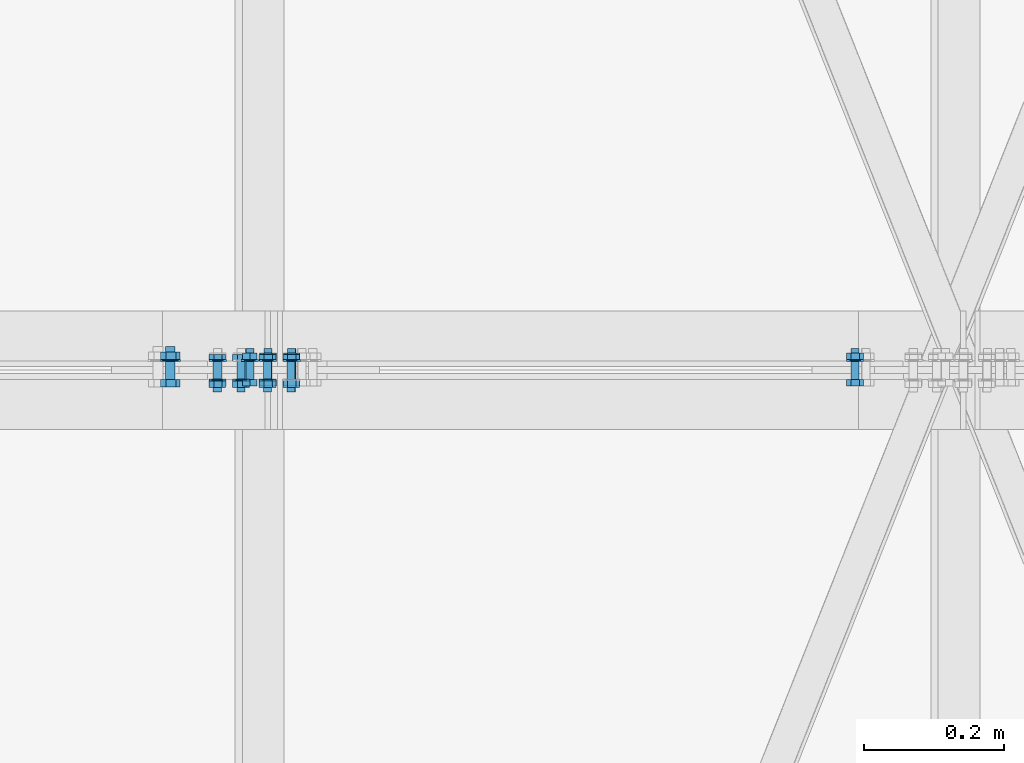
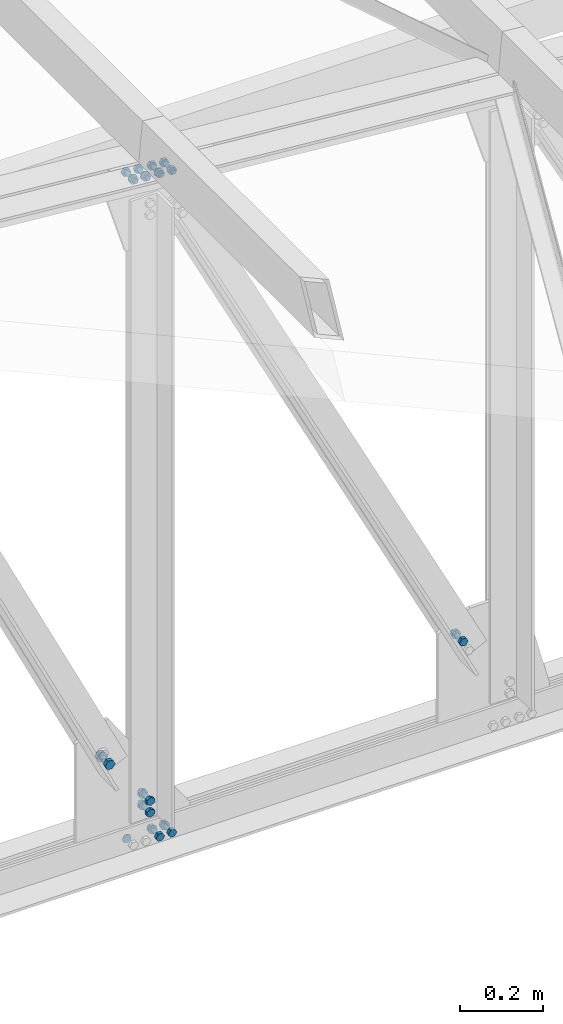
# One storey, part 142 of 251: 40 mechanical fasteners.
"""IFC4 building model written with IfcOpenShell, lengths in metres."""

import ifcopenshell
import ifcopenshell.guid

model = None  # the IFC model being written
_history = None  # IfcOwnerHistory: only IFC2X3 demands one
_inside = {}  # id of a spatial element -> (the spatial element, [elements in it])
_under = {}  # id of a project, library or spatial element -> (it, [spatial elements below it])
_declared = {}  # id of a project -> (the project, [libraries it declares])
_typed = {}  # id of a type object -> (the type object, [elements of that type])
_made_of = {}  # id of a material, layer set ... -> (it, [elements and type objects made of it])


def new_model(schema):
    """Start an empty IFC model of exactly this schema.

    Asked for "IFC4X3", IfcOpenShell would pick the latest addendum, in which some entities
    have other attributes; the version numbers below select the first issue.
    IFC2X3 requires an IfcOwnerHistory on every rooted entity: one is made here for all.
    """
    global model, _history
    if schema == "IFC4X3":
        model = ifcopenshell.file(schema_version=(4, 3, 0, 0))
    else:
        model = ifcopenshell.file(schema=schema)
    _inside.clear()
    _under.clear()
    _declared.clear()
    _typed.clear()
    _made_of.clear()
    _history = None
    if model.schema == "IFC2X3":
        org = make("IfcOrganization", Name="unknown")
        user = make(
            "IfcPersonAndOrganization",
            ThePerson=make("IfcPerson", FamilyName="unknown"),
            TheOrganization=org,
        )
        app = make(
            "IfcApplication",
            ApplicationDeveloper=org,
            Version="unknown",
            ApplicationFullName="unknown",
            ApplicationIdentifier="unknown",
        )
        _history = make(
            "IfcOwnerHistory",
            OwningUser=user,
            OwningApplication=app,
            ChangeAction="ADDED",
            CreationDate=0,
        )
    return model


def make(cls, **values):
    """One entity of the class cls with the attributes given. An attribute that is None is left unset."""
    return model.create_entity(
        cls, **{name: value for name, value in values.items() if value is not None}
    )


def rooted(cls, **values):
    """An entity with a GlobalId (a new one), such as an element, a storey or a relation."""
    return make(cls, GlobalId=ifcopenshell.guid.new(), OwnerHistory=_history, **values)


def si_unit(unit_type, name, prefix=None):
    """IfcSIUnit, for example si_unit("LENGTHUNIT", "METRE", prefix="MILLI")."""
    return make("IfcSIUnit", UnitType=unit_type, Prefix=prefix, Name=name)


def assignment(units):
    """IfcUnitAssignment: the units of a project."""
    return None if units is None else make("IfcUnitAssignment", Units=units)


def point(xyz):
    """IfcCartesianPoint."""
    return None if xyz is None else make("IfcCartesianPoint", Coordinates=xyz)


def direction(xyz):
    """IfcDirection."""
    return None if xyz is None else make("IfcDirection", DirectionRatios=xyz)


def frame(location, z_axis=None, x_axis=None):
    """IfcAxis2Placement3D, a coordinate frame: its origin and axes. An axis left out is left unset."""
    return make(
        "IfcAxis2Placement3D",
        Location=point(location),
        Axis=direction(z_axis),
        RefDirection=direction(x_axis),
    )


def origin_with_axes():
    """The frame at (0, 0, 0) with the z axis (0, 0, 1) and the x axis (1, 0, 0) written out."""
    return frame((0.0, 0.0, 0.0), z_axis=(0.0, 0.0, 1.0), x_axis=(1.0, 0.0, 0.0))


def place(relative_to, where):
    """IfcLocalPlacement: puts the frame where relative to a parent placement (None: the world)."""
    return make(
        "IfcLocalPlacement", PlacementRelTo=relative_to, RelativePlacement=where
    )


def context(
    kind, dimensions, precision=None, world=None, true_north=None, identifier=None
):
    """IfcGeometricRepresentationContext, for example the 3D "Model" context."""
    return make(
        "IfcGeometricRepresentationContext",
        ContextIdentifier=identifier,
        ContextType=kind,
        CoordinateSpaceDimension=dimensions,
        Precision=precision,
        WorldCoordinateSystem=world,
        TrueNorth=true_north,
    )


def project(units=None, contexts=None):
    """IfcProject with its units and contexts."""
    return rooted(
        "IfcProject",
        Name="project",
        RepresentationContexts=contexts,
        UnitsInContext=assignment(units),
    )


def spatial(cls, under=None, at=None, **own):
    """A site, building, storey or space (cls), placed at a placement, below another one or the project."""
    s = rooted(cls, ObjectPlacement=at, **own)
    if under is not None:
        _under.setdefault(under.id(), (under, []))[1].append(s)
    return s


def polyline(points):
    """IfcPolyline through the points."""
    return make("IfcPolyline", Points=[point(p) for p in points])


def outline(outer, holes=None, kind="AREA"):
    """IfcArbitraryClosedProfileDef: a profile drawn as a closed curve; with holes, ...WithVoids."""
    if holes is None:
        return make("IfcArbitraryClosedProfileDef", ProfileType=kind, OuterCurve=outer)
    return make(
        "IfcArbitraryProfileDefWithVoids",
        ProfileType=kind,
        OuterCurve=outer,
        InnerCurves=holes,
    )


def extrude(swept, where, along, depth):
    """IfcExtrudedAreaSolid: the profile swept, set in the frame where, extruded along a direction by depth."""
    return make(
        "IfcExtrudedAreaSolid",
        SweptArea=swept,
        Position=where,
        ExtrudedDirection=direction(along),
        Depth=depth,
    )


def shape(context_of_items, identifier, shape_type, items):
    """IfcShapeRepresentation: the items that make up one representation, for example the "Body"."""
    return make(
        "IfcShapeRepresentation",
        ContextOfItems=context_of_items,
        RepresentationIdentifier=identifier,
        RepresentationType=shape_type,
        Items=items,
    )


def made_of(thing, what):
    """Note that an element or type object is made of a material, layer set ...; save() writes the relation."""
    if what is not None:
        _made_of.setdefault(what.id(), (what, []))[1].append(thing)
    return thing


def type_object(cls, material=None, **own):
    """A type object (cls), such as IfcWallType, which elements share."""
    return made_of(rooted(cls, **own), material)


def element(
    cls,
    number,
    at=None,
    inside=None,
    cuts=None,
    type_object=None,
    material=None,
    context=None,
    identifier="Body",
    shape_type=None,
    held_by="IfcProductDefinitionShape",
    body=None,
    shapes=None,
    **own,
):
    """One element of the class cls, such as IfcWall. Its Tag is "e" and its number.

    at: its placement. inside: the storey or other place that contains it. cuts: it is an
    opening in that element (IfcRelVoidsElement). A single representation is given by context,
    identifier, shape_type and body (its items); several are given by shapes. held_by: the class
    of the entity that holds the representations. save() writes the other relations.
    """
    e = rooted(cls, Tag="e%d" % number, ObjectPlacement=at, **own)
    if body is not None:
        shapes = [shape(context, identifier, shape_type, body)]
    if shapes is not None:
        e.Representation = make(held_by, Representations=shapes)
    if inside is not None:
        _inside.setdefault(inside.id(), (inside, []))[1].append(e)
    if cuts is not None:
        rooted(
            "IfcRelVoidsElement", RelatingBuildingElement=cuts, RelatedOpeningElement=e
        )
    if type_object is not None:
        _typed.setdefault(type_object.id(), (type_object, []))[1].append(e)
    return made_of(e, material)


def aggregate(whole, parts):
    """IfcRelAggregates: a whole, such as a stair, and the parts it consists of."""
    return rooted("IfcRelAggregates", RelatingObject=whole, RelatedObjects=parts)


def save(model, path):
    """Write the relations noted so far, then the file.

    IfcRelAggregates (storeys below a building ...), IfcRelContainedInSpatialStructure (elements
    in a storey), IfcRelDefinesByType, IfcRelAssociatesMaterial and IfcRelDeclares: one each for
    every whole, place, type object, material and project.
    """
    for whole, parts in _under.values():
        aggregate(whole, parts)
    for where, things in _inside.values():
        rooted(
            "IfcRelContainedInSpatialStructure",
            RelatedElements=things,
            RelatingStructure=where,
        )
    for kind, things in _typed.values():
        rooted("IfcRelDefinesByType", RelatedObjects=things, RelatingType=kind)
    for what, things in _made_of.values():
        rooted("IfcRelAssociatesMaterial", RelatedObjects=things, RelatingMaterial=what)
    for by, libraries in _declared.values():
        rooted("IfcRelDeclares", RelatingContext=by, RelatedDefinitions=libraries)
    model.write(path)


model = new_model("IFC4")

# Units and contexts
model_context = context("Model", 3, precision=1e-05, world=origin_with_axes())
ifc_project = project(units=[si_unit("LENGTHUNIT", "METRE"), si_unit("AREAUNIT", "SQUARE_METRE"), si_unit("VOLUMEUNIT", "CUBIC_METRE"), si_unit("MASSUNIT", "GRAM", prefix="KILO"), si_unit("TIMEUNIT", "SECOND"), si_unit("PLANEANGLEUNIT", "RADIAN"), si_unit("SOLIDANGLEUNIT", "STERADIAN"), si_unit("THERMODYNAMICTEMPERATUREUNIT", "DEGREE_CELSIUS")], contexts=[model_context])

# Site, building, storey
placement_1 = place(None, origin_with_axes())
site = spatial("IfcSite", under=ifc_project, at=placement_1, Name="Italia", CompositionType="ELEMENT")
building = spatial("IfcBuilding", under=site, at=placement_1, Name="Deposito", CompositionType="ELEMENT")
storey = spatial("IfcBuildingStorey", under=building, at=placement_1, Name="Storey 0", CompositionType="ELEMENT", Elevation=0.0)

# Mechanical fasteners
mechanical_fastener_type_1 = type_object("IfcMechanicalFastenerType", Name="Reticolare 5", PredefinedType="BOLT")
placement_2 = place(placement_1, origin_with_axes())
mechanical_fastener_1_placement = place(placement_2, origin_with_axes())
element("IfcMechanicalFastener", 1, at=mechanical_fastener_1_placement, inside=storey, type_object=mechanical_fastener_type_1, Name="Reticolare 5", NominalDiameter=0.024, context=model_context, shape_type="SweptSolid", body=[
    extrude(outline(polyline([(0.0, 0.0), (-0.000409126, -0.00310564), (-0.00160789, -0.00600004), (-0.00351524, -0.00848532), (-0.00600052, -0.0103922), (-0.00889397, -0.011591), (-0.0120001, -0.0120001), (-0.0151062, -0.011591), (-0.0179996, -0.0103922), (-0.0204849, -0.00848532), (-0.0223923, -0.00600004), (-0.023591, -0.00310564), (-0.0240002, 0.0), (-0.023591, 0.00310564), (-0.0223923, 0.00600004), (-0.0204849, 0.00848532), (-0.0179996, 0.0103922), (-0.0151062, 0.011591), (-0.0120001, 0.0120001), (-0.00889397, 0.011591), (-0.00600052, 0.0103922), (-0.00351524, 0.00848532), (-0.00160789, 0.00600004), (-0.000409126, 0.00310564), (0.0, 0.0)])), frame((9.00086, 15.015, 5.007), z_axis=(0.0, -1.0, 0.0), x_axis=(1.0, 0.0, 0.0)), (0.0, 0.0, 1.0), 0.00200081),
])
mechanical_fastener_type_2 = type_object("IfcMechanicalFastenerType", Name="Reticolare 5", PredefinedType="BOLT")
mechanical_fastener_2_placement = place(placement_2, origin_with_axes())
element("IfcMechanicalFastener", 2, at=mechanical_fastener_2_placement, inside=storey, type_object=mechanical_fastener_type_2, Name="Reticolare 5", NominalDiameter=0.0119997, context=model_context, shape_type="SweptSolid", body=[
    extrude(outline(polyline([(0.0, 0.0), (-0.0120001, 0.0), (-0.0179996, 0.0103922), (-0.0120001, 0.0207844), (0.0, 0.0207844), (0.00600052, 0.0103922), (0.0, 0.0)])), frame((9.06686, 14.987, 4.99661), z_axis=(0.0, -1.0, 0.0), x_axis=(1.0, 0.0, 0.0)), (0.0, 0.0, 1.0), 0.00960064),
])
mechanical_fastener_type_3 = type_object("IfcMechanicalFastenerType", Name="Reticolare 5", PredefinedType="BOLT")
mechanical_fastener_3_placement = place(placement_2, origin_with_axes())
element("IfcMechanicalFastener", 3, at=mechanical_fastener_3_placement, inside=storey, type_object=mechanical_fastener_type_3, Name="Reticolare 5", NominalDiameter=0.012, context=model_context, shape_type="SweptSolid", body=[
    extrude(outline(polyline([(0.0, 0.0), (-0.000204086, -0.00155306), (-0.000802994, -0.00299978), (-0.00175667, -0.00424242), (-0.00299931, -0.00519609), (-0.00444698, -0.00579548), (-0.00599957, -0.00600004), (-0.00755215, -0.00579548), (-0.00899982, -0.00519609), (-0.0102425, -0.00424242), (-0.0111961, -0.00299978), (-0.011795, -0.00155306), (-0.0119991, 0.0), (-0.011795, 0.00155306), (-0.0111961, 0.00299978), (-0.0102425, 0.00424242), (-0.00899982, 0.00519609), (-0.00755215, 0.00579548), (-0.00599957, 0.00600004), (-0.00444698, 0.00579548), (-0.00299931, 0.00519609), (-0.00175667, 0.00424242), (-0.000802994, 0.00299978), (-0.000204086, 0.00155306), (0.0, 0.0)])), frame((9.06686, 15.031, 5.007), z_axis=(0.0, -1.0, 0.0), x_axis=(1.0, 0.0, 0.0)), (0.0, 0.0, 1.0), 0.0439997),
])
mechanical_fastener_type_4 = type_object("IfcMechanicalFastenerType", Name="Reticolare 5", PredefinedType="BOLT")
mechanical_fastener_4_placement = place(placement_2, origin_with_axes())
element("IfcMechanicalFastener", 4, at=mechanical_fastener_4_placement, inside=storey, type_object=mechanical_fastener_type_4, Name="Reticolare 5", NominalDiameter=0.0119997, context=model_context, shape_type="SweptSolid", body=[
    extrude(outline(polyline([(0.0, 0.0), (-0.0120001, 0.0), (-0.0179996, 0.0103922), (-0.0120001, 0.0207844), (0.0, 0.0207844), (0.00600052, 0.0103922), (0.0, 0.0)])), frame((9.06686, 15.0246, 4.99661), z_axis=(0.0, -1.0, 0.0), x_axis=(1.0, 0.0, 0.0)), (0.0, 0.0, 1.0), 0.00959969),
])
mechanical_fastener_type_5 = type_object("IfcMechanicalFastenerType", Name="Reticolare 5", PredefinedType="BOLT")
mechanical_fastener_5_placement = place(placement_2, origin_with_axes())
element("IfcMechanicalFastener", 5, at=mechanical_fastener_5_placement, inside=storey, type_object=mechanical_fastener_type_5, Name="Reticolare 5", NominalDiameter=0.024, context=model_context, shape_type="SweptSolid", body=[
    extrude(outline(polyline([(0.0, 0.0), (-0.000409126, -0.00310564), (-0.00160789, -0.00600004), (-0.00351524, -0.00848532), (-0.00600052, -0.0103922), (-0.00889397, -0.011591), (-0.0120001, -0.0120001), (-0.0151062, -0.011591), (-0.0179996, -0.0103922), (-0.0204849, -0.00848532), (-0.0223923, -0.00600004), (-0.023591, -0.00310564), (-0.0240002, 0.0), (-0.023591, 0.00310564), (-0.0223923, 0.00600004), (-0.0204849, 0.00848532), (-0.0179996, 0.0103922), (-0.0151062, 0.011591), (-0.0120001, 0.0120001), (-0.00889397, 0.011591), (-0.00600052, 0.0103922), (-0.00351524, 0.00848532), (-0.00160789, 0.00600004), (-0.000409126, 0.00310564), (0.0, 0.0)])), frame((9.07286, 15.015, 5.007), z_axis=(0.0, -1.0, 0.0), x_axis=(1.0, 0.0, 0.0)), (0.0, 0.0, 1.0), 0.00200081),
])
mechanical_fastener_type_6 = type_object("IfcMechanicalFastenerType", Name="Reticolare 5", PredefinedType="BOLT")
mechanical_fastener_6_placement = place(placement_2, origin_with_axes())
element("IfcMechanicalFastener", 6, at=mechanical_fastener_6_placement, inside=storey, type_object=mechanical_fastener_type_6, Name="Reticolare 5", NominalDiameter=0.0119997, context=model_context, shape_type="SweptSolid", body=[
    extrude(outline(polyline([(0.0, 0.0), (-0.0120001, 0.0), (-0.0179996, 0.0103922), (-0.0120001, 0.0207844), (0.0, 0.0207844), (0.00599957, 0.0103922), (0.0, 0.0)])), frame((9.10086, 14.987, 4.99661), z_axis=(0.0, -1.0, 0.0), x_axis=(1.0, 0.0, 0.0)), (0.0, 0.0, 1.0), 0.00960064),
])
mechanical_fastener_type_7 = type_object("IfcMechanicalFastenerType", Name="Reticolare 5", PredefinedType="BOLT")
mechanical_fastener_7_placement = place(placement_2, origin_with_axes())
element("IfcMechanicalFastener", 7, at=mechanical_fastener_7_placement, inside=storey, type_object=mechanical_fastener_type_7, Name="Reticolare 5", NominalDiameter=0.012, context=model_context, shape_type="SweptSolid", body=[
    extrude(outline(polyline([(0.0, 0.0), (-0.000204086, -0.00155306), (-0.000802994, -0.00299978), (-0.00175667, -0.00424242), (-0.00299931, -0.00519609), (-0.00444698, -0.00579548), (-0.00599957, -0.00600004), (-0.00755215, -0.00579548), (-0.00899982, -0.00519609), (-0.0102425, -0.00424242), (-0.0111961, -0.00299978), (-0.011795, -0.00155306), (-0.0119991, 0.0), (-0.011795, 0.00155306), (-0.0111961, 0.00299978), (-0.0102425, 0.00424242), (-0.00899982, 0.00519609), (-0.00755215, 0.00579548), (-0.00599957, 0.00600004), (-0.00444698, 0.00579548), (-0.00299931, 0.00519609), (-0.00175667, 0.00424242), (-0.000802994, 0.00299978), (-0.000204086, 0.00155306), (0.0, 0.0)])), frame((9.10086, 15.031, 5.007), z_axis=(0.0, -1.0, 0.0), x_axis=(1.0, 0.0, 0.0)), (0.0, 0.0, 1.0), 0.0439997),
])
mechanical_fastener_type_8 = type_object("IfcMechanicalFastenerType", Name="Reticolare 5", PredefinedType="BOLT")
mechanical_fastener_8_placement = place(placement_2, origin_with_axes())
element("IfcMechanicalFastener", 8, at=mechanical_fastener_8_placement, inside=storey, type_object=mechanical_fastener_type_8, Name="Reticolare 5", NominalDiameter=0.0119997, context=model_context, shape_type="SweptSolid", body=[
    extrude(outline(polyline([(0.0, 0.0), (-0.0120001, 0.0), (-0.0179996, 0.0103922), (-0.0120001, 0.0207844), (0.0, 0.0207844), (0.00599957, 0.0103922), (0.0, 0.0)])), frame((9.10086, 15.0246, 4.99661), z_axis=(0.0, -1.0, 0.0), x_axis=(1.0, 0.0, 0.0)), (0.0, 0.0, 1.0), 0.00959969),
])
mechanical_fastener_type_9 = type_object("IfcMechanicalFastenerType", Name="Reticolare 5", PredefinedType="BOLT")
mechanical_fastener_9_placement = place(placement_2, origin_with_axes())
element("IfcMechanicalFastener", 9, at=mechanical_fastener_9_placement, inside=storey, type_object=mechanical_fastener_type_9, Name="Reticolare 5", NominalDiameter=0.024, context=model_context, shape_type="SweptSolid", body=[
    extrude(outline(polyline([(0.0, 0.0), (-0.000409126, -0.00310564), (-0.00160789, -0.00600004), (-0.00351524, -0.00848532), (-0.00600052, -0.0103922), (-0.00889397, -0.011591), (-0.0120001, -0.0120001), (-0.0151062, -0.011591), (-0.0179996, -0.0103922), (-0.0204849, -0.00848532), (-0.0223923, -0.00600004), (-0.023591, -0.00310564), (-0.0240002, 0.0), (-0.023591, 0.00310564), (-0.0223923, 0.00600004), (-0.0204849, 0.00848532), (-0.0179996, 0.0103922), (-0.0151062, 0.011591), (-0.0120001, 0.0120001), (-0.00889397, 0.011591), (-0.00600052, 0.0103922), (-0.00351524, 0.00848532), (-0.00160789, 0.00600004), (-0.000409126, 0.00310564), (0.0, 0.0)])), frame((9.10686, 15.015, 5.007), z_axis=(0.0, -1.0, 0.0), x_axis=(1.0, 0.0, 0.0)), (0.0, 0.0, 1.0), 0.00200081),
])
mechanical_fastener_type_10 = type_object("IfcMechanicalFastenerType", Name="Reticolare 5", PredefinedType="BOLT")
mechanical_fastener_10_placement = place(placement_2, origin_with_axes())
element("IfcMechanicalFastener", 10, at=mechanical_fastener_10_placement, inside=storey, type_object=mechanical_fastener_type_10, Name="Reticolare 5", NominalDiameter=0.0119999, context=model_context, shape_type="SweptSolid", body=[
    extrude(outline(polyline([(0.0, 0.0), (0.0, -0.0120001), (-0.0103922, -0.0180001), (-0.0207844, -0.0120001), (-0.0207844, 0.0), (-0.0103922, 0.00600004), (0.0, 0.0)])), frame((9.04525, 14.987, 5.09253), z_axis=(0.0, -1.0, 0.0), x_axis=(1.0, 0.0, 0.0)), (0.0, 0.0, 1.0), 0.00960064),
])
mechanical_fastener_type_11 = type_object("IfcMechanicalFastenerType", Name="Reticolare 5", PredefinedType="BOLT")
mechanical_fastener_11_placement = place(placement_2, origin_with_axes())
element("IfcMechanicalFastener", 11, at=mechanical_fastener_11_placement, inside=storey, type_object=mechanical_fastener_type_11, Name="Reticolare 5", NominalDiameter=0.012, context=model_context, shape_type="SweptSolid", body=[
    extrude(outline(polyline([(0.0, 0.0), (-0.000204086, -0.00155306), (-0.000802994, -0.00299978), (-0.00175667, -0.00424242), (-0.00299931, -0.00519609), (-0.00444698, -0.00579548), (-0.00599957, -0.00600004), (-0.00755215, -0.00579548), (-0.00899982, -0.00519609), (-0.0102425, -0.00424242), (-0.0111961, -0.00299978), (-0.011795, -0.00155306), (-0.0119991, 0.0), (-0.011795, 0.00155306), (-0.0111961, 0.00299978), (-0.0102425, 0.00424242), (-0.00899982, 0.00519609), (-0.00755215, 0.00579548), (-0.00599957, 0.00600004), (-0.00444698, 0.00579548), (-0.00299931, 0.00519609), (-0.00175667, 0.00424242), (-0.000802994, 0.00299978), (-0.000204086, 0.00155306), (0.0, 0.0)])), frame((9.04086, 15.031, 5.08653), z_axis=(0.0, -1.0, 0.0), x_axis=(1.0, 0.0, 0.0)), (0.0, 0.0, 1.0), 0.0439997),
])
mechanical_fastener_type_12 = type_object("IfcMechanicalFastenerType", Name="Reticolare 5", PredefinedType="BOLT")
mechanical_fastener_12_placement = place(placement_2, origin_with_axes())
element("IfcMechanicalFastener", 12, at=mechanical_fastener_12_placement, inside=storey, type_object=mechanical_fastener_type_12, Name="Reticolare 5", NominalDiameter=0.0119999, context=model_context, shape_type="SweptSolid", body=[
    extrude(outline(polyline([(0.0, 0.0), (0.0, -0.0120001), (-0.0103922, -0.0180001), (-0.0207844, -0.0120001), (-0.0207844, 0.0), (-0.0103922, 0.00600004), (0.0, 0.0)])), frame((9.04525, 15.0246, 5.09253), z_axis=(0.0, -1.0, 0.0), x_axis=(1.0, 0.0, 0.0)), (0.0, 0.0, 1.0), 0.00959969),
])
mechanical_fastener_type_13 = type_object("IfcMechanicalFastenerType", Name="Reticolare 5", PredefinedType="BOLT")
mechanical_fastener_13_placement = place(placement_2, origin_with_axes())
element("IfcMechanicalFastener", 13, at=mechanical_fastener_13_placement, inside=storey, type_object=mechanical_fastener_type_13, Name="Reticolare 5", NominalDiameter=0.024, context=model_context, shape_type="SweptSolid", body=[
    extrude(outline(polyline([(0.0, 0.0), (-0.000409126, -0.00310564), (-0.00160789, -0.00600004), (-0.00351524, -0.00848532), (-0.00600052, -0.0103922), (-0.00889397, -0.011591), (-0.0120001, -0.0120001), (-0.0151062, -0.011591), (-0.0179996, -0.0103922), (-0.0204849, -0.00848532), (-0.0223923, -0.00600004), (-0.023591, -0.00310564), (-0.0240002, 0.0), (-0.023591, 0.00310564), (-0.0223923, 0.00600004), (-0.0204849, 0.00848532), (-0.0179996, 0.0103922), (-0.0151062, 0.011591), (-0.0120001, 0.0120001), (-0.00889397, 0.011591), (-0.00600052, 0.0103922), (-0.00351524, 0.00848532), (-0.00160789, 0.00600004), (-0.000409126, 0.00310564), (0.0, 0.0)])), frame((9.04686, 15.015, 5.08653), z_axis=(0.0, -1.0, 0.0), x_axis=(1.0, 0.0, 0.0)), (0.0, 0.0, 1.0), 0.00200081),
])
mechanical_fastener_type_14 = type_object("IfcMechanicalFastenerType", Name="Reticolare 5", PredefinedType="BOLT")
mechanical_fastener_14_placement = place(placement_2, origin_with_axes())
element("IfcMechanicalFastener", 14, at=mechanical_fastener_14_placement, inside=storey, type_object=mechanical_fastener_type_14, Name="Reticolare 5", NominalDiameter=0.0119999, context=model_context, shape_type="SweptSolid", body=[
    extrude(outline(polyline([(0.0, 0.0), (0.0, -0.0120001), (-0.0103922, -0.0180001), (-0.0207844, -0.0120001), (-0.0207844, 0.0), (-0.0103922, 0.00600004), (0.0, 0.0)])), frame((9.04525, 14.987, 5.12653), z_axis=(0.0, -1.0, 0.0), x_axis=(1.0, 0.0, 0.0)), (0.0, 0.0, 1.0), 0.00960064),
])
mechanical_fastener_type_15 = type_object("IfcMechanicalFastenerType", Name="Reticolare 5", PredefinedType="BOLT")
mechanical_fastener_15_placement = place(placement_2, origin_with_axes())
element("IfcMechanicalFastener", 15, at=mechanical_fastener_15_placement, inside=storey, type_object=mechanical_fastener_type_15, Name="Reticolare 5", NominalDiameter=0.012, context=model_context, shape_type="SweptSolid", body=[
    extrude(outline(polyline([(0.0, 0.0), (-0.000204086, -0.00155306), (-0.000802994, -0.00299978), (-0.00175667, -0.00424242), (-0.00299931, -0.00519609), (-0.00444698, -0.00579548), (-0.00599957, -0.00600004), (-0.00755215, -0.00579548), (-0.00899982, -0.00519609), (-0.0102425, -0.00424242), (-0.0111961, -0.00299978), (-0.011795, -0.00155306), (-0.0119991, 0.0), (-0.011795, 0.00155306), (-0.0111961, 0.00299978), (-0.0102425, 0.00424242), (-0.00899982, 0.00519609), (-0.00755215, 0.00579548), (-0.00599957, 0.00600004), (-0.00444698, 0.00579548), (-0.00299931, 0.00519609), (-0.00175667, 0.00424242), (-0.000802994, 0.00299978), (-0.000204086, 0.00155306), (0.0, 0.0)])), frame((9.04086, 15.031, 5.12053), z_axis=(0.0, -1.0, 0.0), x_axis=(1.0, 0.0, 0.0)), (0.0, 0.0, 1.0), 0.0439997),
])
mechanical_fastener_type_16 = type_object("IfcMechanicalFastenerType", Name="Reticolare 5", PredefinedType="BOLT")
mechanical_fastener_16_placement = place(placement_2, origin_with_axes())
element("IfcMechanicalFastener", 16, at=mechanical_fastener_16_placement, inside=storey, type_object=mechanical_fastener_type_16, Name="Reticolare 5", NominalDiameter=0.0119999, context=model_context, shape_type="SweptSolid", body=[
    extrude(outline(polyline([(0.0, 0.0), (0.0, -0.0120001), (-0.0103922, -0.0180001), (-0.0207844, -0.0120001), (-0.0207844, 0.0), (-0.0103922, 0.00600004), (0.0, 0.0)])), frame((9.04525, 15.0246, 5.12653), z_axis=(0.0, -1.0, 0.0), x_axis=(1.0, 0.0, 0.0)), (0.0, 0.0, 1.0), 0.00959969),
])
mechanical_fastener_type_17 = type_object("IfcMechanicalFastenerType", Name="Reticolare 5", PredefinedType="BOLT")
mechanical_fastener_17_placement = place(placement_2, origin_with_axes())
element("IfcMechanicalFastener", 17, at=mechanical_fastener_17_placement, inside=storey, type_object=mechanical_fastener_type_17, Name="Reticolare 5", NominalDiameter=0.024, context=model_context, shape_type="SweptSolid", body=[
    extrude(outline(polyline([(0.0, 0.0), (-0.000409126, -0.00310564), (-0.00160789, -0.00600004), (-0.00351524, -0.00848532), (-0.00600052, -0.0103922), (-0.00889397, -0.011591), (-0.0120001, -0.0120001), (-0.0151062, -0.011591), (-0.0179996, -0.0103922), (-0.0204849, -0.00848532), (-0.0223923, -0.00600004), (-0.023591, -0.00310564), (-0.0240002, 0.0), (-0.023591, 0.00310564), (-0.0223923, 0.00600004), (-0.0204849, 0.00848532), (-0.0179996, 0.0103922), (-0.0151062, 0.011591), (-0.0120001, 0.0120001), (-0.00889397, 0.011591), (-0.00600052, 0.0103922), (-0.00351524, 0.00848532), (-0.00160789, 0.00600004), (-0.000409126, 0.00310564), (0.0, 0.0)])), frame((9.04686, 15.015, 5.12053), z_axis=(0.0, -1.0, 0.0), x_axis=(1.0, 0.0, 0.0)), (0.0, 0.0, 1.0), 0.00200081),
])
mechanical_fastener_type_18 = type_object("IfcMechanicalFastenerType", Name="Reticolare 5", PredefinedType="BOLT")
mechanical_fastener_18_placement = place(placement_2, origin_with_axes())
element("IfcMechanicalFastener", 18, at=mechanical_fastener_18_placement, inside=storey, type_object=mechanical_fastener_type_18, Name="Reticolare 5", NominalDiameter=0.0139994, context=model_context, shape_type="SweptSolid", body=[
    extrude(outline(polyline([(0.0, 0.0), (-0.00612926, 0.0125871), (0.00170708, 0.0241885), (0.0156717, 0.0232029), (0.021801, 0.0106158), (0.0139647, -0.000985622), (0.0, 0.0)])), frame((8.91327, 14.987, 5.25695), z_axis=(0.0, -1.0, 0.0), x_axis=(1.0, 0.0, 0.0)), (0.0, 0.0, 1.0), 0.0112009),
])
mechanical_fastener_type_19 = type_object("IfcMechanicalFastenerType", Name="Reticolare 5", PredefinedType="BOLT")
mechanical_fastener_19_placement = place(placement_2, origin_with_axes())
element("IfcMechanicalFastener", 19, at=mechanical_fastener_19_placement, inside=storey, type_object=mechanical_fastener_type_19, Name="Reticolare 5", NominalDiameter=0.014, context=model_context, shape_type="SweptSolid", body=[
    extrude(outline(polyline([(0.0, 0.0), (-0.000238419, -0.0018115), (-0.000937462, -0.00349998), (-0.0020504, -0.00494957), (-0.00349998, -0.00606203), (-0.00518799, -0.00676155), (-0.00699997, -0.00699997), (-0.00881195, -0.00676155), (-0.0105, -0.00606203), (-0.0119495, -0.00494957), (-0.0130625, -0.00349998), (-0.0137615, -0.0018115), (-0.0139999, 0.0), (-0.0137615, 0.0018115), (-0.0130625, 0.00349998), (-0.0119495, 0.00494957), (-0.0105, 0.00606203), (-0.00881195, 0.00676155), (-0.00699997, 0.00699997), (-0.00518799, 0.00676155), (-0.00349998, 0.00606203), (-0.0020504, 0.00494957), (-0.000937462, 0.00349998), (-0.000238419, 0.0018115), (0.0, 0.0)])), frame((8.9281, 15.034, 5.26855), z_axis=(0.0, -1.0, 0.0), x_axis=(1.0, 0.0, 0.0)), (0.0, 0.0, 1.0), 0.0469999),
])
mechanical_fastener_type_20 = type_object("IfcMechanicalFastenerType", Name="Reticolare 5", PredefinedType="BOLT")
mechanical_fastener_20_placement = place(placement_2, origin_with_axes())
element("IfcMechanicalFastener", 20, at=mechanical_fastener_20_placement, inside=storey, type_object=mechanical_fastener_type_20, Name="Reticolare 5", NominalDiameter=0.0139994, context=model_context, shape_type="SweptSolid", body=[
    extrude(outline(polyline([(0.0, 0.0), (-0.00612926, 0.0125871), (0.00170708, 0.0241885), (0.0156717, 0.0232029), (0.021801, 0.0106158), (0.0139647, -0.000985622), (0.0, 0.0)])), frame((8.91327, 15.0262, 5.25695), z_axis=(0.0, -1.0, 0.0), x_axis=(1.0, 0.0, 0.0)), (0.0, 0.0, 1.0), 0.0112),
])
mechanical_fastener_type_21 = type_object("IfcMechanicalFastenerType", Name="Reticolare 5", PredefinedType="BOLT")
mechanical_fastener_21_placement = place(placement_2, origin_with_axes())
element("IfcMechanicalFastener", 21, at=mechanical_fastener_21_placement, inside=storey, type_object=mechanical_fastener_type_21, Name="Reticolare 5", NominalDiameter=0.028, context=model_context, shape_type="SweptSolid", body=[
    extrude(outline(polyline([(0.0, 0.0), (-0.000476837, -0.00362349), (-0.00187588, -0.00699997), (-0.0041008, -0.00989962), (-0.00699997, -0.0121245), (-0.0103769, -0.0135231), (-0.0139999, -0.0139999), (-0.0176229, -0.0135231), (-0.0209999, -0.0121245), (-0.0238991, -0.00989962), (-0.026124, -0.00699997), (-0.027523, -0.00362349), (-0.0279999, 0.0), (-0.027523, 0.00362349), (-0.026124, 0.00699997), (-0.0238991, 0.00989962), (-0.0209999, 0.0121245), (-0.0176229, 0.0135231), (-0.0139999, 0.0139999), (-0.0103769, 0.0135231), (-0.00699997, 0.0121245), (-0.0041008, 0.00989962), (-0.00187588, 0.00699997), (-0.000476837, 0.00362349), (0.0, 0.0)])), frame((8.9351, 15.015, 5.26855), z_axis=(0.0, -1.0, 0.0), x_axis=(1.0, 0.0, 0.0)), (0.0, 0.0, 1.0), 0.00200081),
])
mechanical_fastener_type_22 = type_object("IfcMechanicalFastenerType", Name="Reticolare 5", PredefinedType="BOLT")
mechanical_fastener_22_placement = place(placement_2, origin_with_axes())
element("IfcMechanicalFastener", 22, at=mechanical_fastener_22_placement, inside=storey, type_object=mechanical_fastener_type_22, Name="Reticolare 5", NominalDiameter=0.0119996, context=model_context, shape_type="SweptSolid", body=[
    extrude(outline(polyline([(0.0, 0.0), (-0.00543976, 0.0106959), (0.00110245, 0.0207553), (0.0130863, 0.0201182), (0.0185261, 0.0094223), (0.0119829, -0.000637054), (0.0, 0.0)])), frame((9.89495, 14.987, 5.27388), z_axis=(0.0, -1.0, 0.0), x_axis=(1.0, 0.0, 0.0)), (0.0, 0.0, 1.0), 0.00960064),
])
mechanical_fastener_type_23 = type_object("IfcMechanicalFastenerType", Name="Reticolare 5", PredefinedType="BOLT")
mechanical_fastener_23_placement = place(placement_2, origin_with_axes())
element("IfcMechanicalFastener", 23, at=mechanical_fastener_23_placement, inside=storey, type_object=mechanical_fastener_type_23, Name="Reticolare 5", NominalDiameter=0.012, context=model_context, shape_type="SweptSolid", body=[
    extrude(outline(polyline([(0.0, 0.0), (-0.000204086, -0.00155306), (-0.000802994, -0.00299978), (-0.00175667, -0.00424242), (-0.00299931, -0.00519609), (-0.00444698, -0.00579548), (-0.00599957, -0.00600004), (-0.00755215, -0.00579548), (-0.00899982, -0.00519609), (-0.0102425, -0.00424242), (-0.0111961, -0.00299978), (-0.011795, -0.00155306), (-0.0119991, 0.0), (-0.011795, 0.00155306), (-0.0111961, 0.00299978), (-0.0102425, 0.00424242), (-0.00899982, 0.00519609), (-0.00755215, 0.00579548), (-0.00599957, 0.00600004), (-0.00444698, 0.00579548), (-0.00299931, 0.00519609), (-0.00175667, 0.00424242), (-0.000802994, 0.00299978), (-0.000204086, 0.00155306), (0.0, 0.0)])), frame((9.90749, 15.031, 5.28394), z_axis=(0.0, -1.0, 0.0), x_axis=(1.0, 0.0, 0.0)), (0.0, 0.0, 1.0), 0.0439997),
])
mechanical_fastener_type_24 = type_object("IfcMechanicalFastenerType", Name="Reticolare 5", PredefinedType="BOLT")
mechanical_fastener_24_placement = place(placement_2, origin_with_axes())
element("IfcMechanicalFastener", 24, at=mechanical_fastener_24_placement, inside=storey, type_object=mechanical_fastener_type_24, Name="Reticolare 5", NominalDiameter=0.0119996, context=model_context, shape_type="SweptSolid", body=[
    extrude(outline(polyline([(0.0, 0.0), (-0.00543976, 0.0106959), (0.00110245, 0.0207553), (0.0130863, 0.0201182), (0.0185261, 0.0094223), (0.0119829, -0.000637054), (0.0, 0.0)])), frame((9.89495, 15.0246, 5.27388), z_axis=(0.0, -1.0, 0.0), x_axis=(1.0, 0.0, 0.0)), (0.0, 0.0, 1.0), 0.00959969),
])
mechanical_fastener_type_25 = type_object("IfcMechanicalFastenerType", Name="Reticolare 5", PredefinedType="BOLT")
mechanical_fastener_25_placement = place(placement_2, origin_with_axes())
element("IfcMechanicalFastener", 25, at=mechanical_fastener_25_placement, inside=storey, type_object=mechanical_fastener_type_25, Name="Reticolare 5", NominalDiameter=0.024, context=model_context, shape_type="SweptSolid", body=[
    extrude(outline(polyline([(0.0, 0.0), (-0.000409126, -0.00310564), (-0.00160789, -0.00600004), (-0.00351524, -0.00848532), (-0.00600052, -0.0103922), (-0.00889397, -0.011591), (-0.0120001, -0.0120001), (-0.0151062, -0.011591), (-0.0179996, -0.0103922), (-0.0204849, -0.00848532), (-0.0223923, -0.00600004), (-0.023591, -0.00310564), (-0.0240002, 0.0), (-0.023591, 0.00310564), (-0.0223923, 0.00600004), (-0.0204849, 0.00848532), (-0.0179996, 0.0103922), (-0.0151062, 0.011591), (-0.0120001, 0.0120001), (-0.00889397, 0.011591), (-0.00600052, 0.0103922), (-0.00351524, 0.00848532), (-0.00160789, 0.00600004), (-0.000409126, 0.00310564), (0.0, 0.0)])), frame((9.9135, 15.015, 5.28394), z_axis=(0.0, -1.0, 0.0), x_axis=(1.0, 0.0, 0.0)), (0.0, 0.0, 1.0), 0.00200081),
])
mechanical_fastener_type_26 = type_object("IfcMechanicalFastenerType", Name="Reticolare 5", PredefinedType="BOLT")
mechanical_fastener_26_placement = place(placement_2, origin_with_axes())
element("IfcMechanicalFastener", 26, at=mechanical_fastener_26_placement, inside=storey, type_object=mechanical_fastener_type_26, Name="Reticolare 5", NominalDiameter=0.0119996, context=model_context, shape_type="SweptSolid", body=[
    extrude(outline(polyline([(0.0, 0.0), (0.0119543, 0.00104618), (0.018837, -0.00878382), (0.0137653, -0.0196595), (0.00181103, -0.0207052), (-0.00507164, -0.0108757), (0.0, 0.0)])), frame((9.0292, 15.013, 6.96323), z_axis=(0.0, 1.0, 0.0), x_axis=(-1.0, 0.0, 0.0)), (0.0, 0.0, 1.0), 0.00960064),
])
mechanical_fastener_type_27 = type_object("IfcMechanicalFastenerType", Name="Reticolare 5", PredefinedType="BOLT")
mechanical_fastener_27_placement = place(placement_2, origin_with_axes())
element("IfcMechanicalFastener", 27, at=mechanical_fastener_27_placement, inside=storey, type_object=mechanical_fastener_type_27, Name="Reticolare 5", NominalDiameter=0.012, context=model_context, shape_type="SweptSolid", body=[
    extrude(outline(polyline([(0.0, 0.0), (-0.000204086, -0.00155306), (-0.000802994, -0.00299978), (-0.00175667, -0.00424242), (-0.00299931, -0.00519609), (-0.00444698, -0.00579548), (-0.00599957, -0.00600004), (-0.00755215, -0.00579548), (-0.00899982, -0.00519609), (-0.0102425, -0.00424242), (-0.0111961, -0.00299978), (-0.011795, -0.00155306), (-0.0119991, 0.0), (-0.011795, 0.00155306), (-0.0111961, 0.00299978), (-0.0102425, 0.00424242), (-0.00899982, 0.00519609), (-0.00755215, 0.00579548), (-0.00599957, 0.00600004), (-0.00444698, 0.00579548), (-0.00299931, 0.00519609), (-0.00175667, 0.00424242), (-0.000802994, 0.00299978), (-0.000204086, 0.00155306), (0.0, 0.0)])), frame((9.01632, 14.969, 6.9534), z_axis=(0.0, 1.0, 0.0), x_axis=(-1.0, 0.0, 0.0)), (0.0, 0.0, 1.0), 0.0439997),
])
mechanical_fastener_type_28 = type_object("IfcMechanicalFastenerType", Name="Reticolare 5", PredefinedType="BOLT")
mechanical_fastener_28_placement = place(placement_2, origin_with_axes())
element("IfcMechanicalFastener", 28, at=mechanical_fastener_28_placement, inside=storey, type_object=mechanical_fastener_type_28, Name="Reticolare 5", NominalDiameter=0.0119996, context=model_context, shape_type="SweptSolid", body=[
    extrude(outline(polyline([(0.0, 0.0), (0.0119543, 0.00104618), (0.018837, -0.00878382), (0.0137653, -0.0196595), (0.00181103, -0.0207052), (-0.00507164, -0.0108757), (0.0, 0.0)])), frame((9.0292, 14.9754, 6.96323), z_axis=(0.0, 1.0, 0.0), x_axis=(-1.0, 0.0, 0.0)), (0.0, 0.0, 1.0), 0.00959969),
])
mechanical_fastener_type_29 = type_object("IfcMechanicalFastenerType", Name="Reticolare 5", PredefinedType="BOLT")
mechanical_fastener_29_placement = place(placement_2, origin_with_axes())
element("IfcMechanicalFastener", 29, at=mechanical_fastener_29_placement, inside=storey, type_object=mechanical_fastener_type_29, Name="Reticolare 5", NominalDiameter=0.024, context=model_context, shape_type="SweptSolid", body=[
    extrude(outline(polyline([(0.0, 0.0), (-0.000409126, -0.00310564), (-0.00160789, -0.00600004), (-0.00351524, -0.00848532), (-0.00600052, -0.0103922), (-0.00889397, -0.011591), (-0.0120001, -0.0120001), (-0.0151062, -0.011591), (-0.0179996, -0.0103922), (-0.0204849, -0.00848532), (-0.0223923, -0.00600004), (-0.023591, -0.00310564), (-0.0240002, 0.0), (-0.023591, 0.00310564), (-0.0223923, 0.00600004), (-0.0204849, 0.00848532), (-0.0179996, 0.0103922), (-0.0151062, 0.011591), (-0.0120001, 0.0120001), (-0.00889397, 0.011591), (-0.00600052, 0.0103922), (-0.00351524, 0.00848532), (-0.00160789, 0.00600004), (-0.000409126, 0.00310564), (0.0, 0.0)])), frame((9.01032, 14.985, 6.9534), z_axis=(0.0, 1.0, 0.0), x_axis=(-1.0, 0.0, 0.0)), (0.0, 0.0, 1.0), 0.00200081),
])
mechanical_fastener_type_30 = type_object("IfcMechanicalFastenerType", Name="Reticolare 5", PredefinedType="BOLT")
mechanical_fastener_30_placement = place(placement_2, origin_with_axes())
element("IfcMechanicalFastener", 30, at=mechanical_fastener_30_placement, inside=storey, type_object=mechanical_fastener_type_30, Name="Reticolare 5", NominalDiameter=0.012, context=model_context, shape_type="SweptSolid", body=[
    extrude(outline(polyline([(0.0, 0.0), (0.0119543, 0.0010457), (0.018837, -0.00878429), (0.0137653, -0.01966), (0.00181103, -0.0207057), (-0.00507164, -0.0108757), (0.0, 0.0)])), frame((8.99533, 15.013, 6.96619), z_axis=(0.0, 1.0, 0.0), x_axis=(-1.0, 0.0, 0.0)), (0.0, 0.0, 1.0), 0.00960064),
])
mechanical_fastener_type_31 = type_object("IfcMechanicalFastenerType", Name="Reticolare 5", PredefinedType="BOLT")
mechanical_fastener_31_placement = place(placement_2, origin_with_axes())
element("IfcMechanicalFastener", 31, at=mechanical_fastener_31_placement, inside=storey, type_object=mechanical_fastener_type_31, Name="Reticolare 5", NominalDiameter=0.012, context=model_context, shape_type="SweptSolid", body=[
    extrude(outline(polyline([(0.0, 0.0), (-0.000204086, -0.00155306), (-0.000802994, -0.00299978), (-0.00175667, -0.00424242), (-0.00299931, -0.00519609), (-0.00444698, -0.00579548), (-0.00599957, -0.00600004), (-0.00755215, -0.00579548), (-0.00899982, -0.00519609), (-0.0102425, -0.00424242), (-0.0111961, -0.00299978), (-0.011795, -0.00155306), (-0.0119991, 0.0), (-0.011795, 0.00155306), (-0.0111961, 0.00299978), (-0.0102425, 0.00424242), (-0.00899982, 0.00519609), (-0.00755215, 0.00579548), (-0.00599957, 0.00600004), (-0.00444698, 0.00579548), (-0.00299931, 0.00519609), (-0.00175667, 0.00424242), (-0.000802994, 0.00299978), (-0.000204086, 0.00155306), (0.0, 0.0)])), frame((8.98245, 14.969, 6.95636), z_axis=(0.0, 1.0, 0.0), x_axis=(-1.0, 0.0, 0.0)), (0.0, 0.0, 1.0), 0.0439997),
])
mechanical_fastener_type_32 = type_object("IfcMechanicalFastenerType", Name="Reticolare 5", PredefinedType="BOLT")
mechanical_fastener_32_placement = place(placement_2, origin_with_axes())
element("IfcMechanicalFastener", 32, at=mechanical_fastener_32_placement, inside=storey, type_object=mechanical_fastener_type_32, Name="Reticolare 5", NominalDiameter=0.012, context=model_context, shape_type="SweptSolid", body=[
    extrude(outline(polyline([(0.0, 0.0), (0.0119543, 0.0010457), (0.018837, -0.00878429), (0.0137653, -0.01966), (0.00181103, -0.0207057), (-0.00507164, -0.0108757), (0.0, 0.0)])), frame((8.99533, 14.9754, 6.96619), z_axis=(0.0, 1.0, 0.0), x_axis=(-1.0, 0.0, 0.0)), (0.0, 0.0, 1.0), 0.00959969),
])
mechanical_fastener_type_33 = type_object("IfcMechanicalFastenerType", Name="Reticolare 5", PredefinedType="BOLT")
mechanical_fastener_33_placement = place(placement_2, origin_with_axes())
element("IfcMechanicalFastener", 33, at=mechanical_fastener_33_placement, inside=storey, type_object=mechanical_fastener_type_33, Name="Reticolare 5", NominalDiameter=0.024, context=model_context, shape_type="SweptSolid", body=[
    extrude(outline(polyline([(0.0, 0.0), (-0.000409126, -0.00310564), (-0.00160789, -0.00600004), (-0.00351524, -0.00848532), (-0.00600052, -0.0103922), (-0.00889397, -0.011591), (-0.0120001, -0.0120001), (-0.0151062, -0.011591), (-0.0179996, -0.0103922), (-0.0204849, -0.00848532), (-0.0223923, -0.00600004), (-0.023591, -0.00310564), (-0.0240002, 0.0), (-0.023591, 0.00310564), (-0.0223923, 0.00600004), (-0.0204849, 0.00848532), (-0.0179996, 0.0103922), (-0.0151062, 0.011591), (-0.0120001, 0.0120001), (-0.00889397, 0.011591), (-0.00600052, 0.0103922), (-0.00351524, 0.00848532), (-0.00160789, 0.00600004), (-0.000409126, 0.00310564), (0.0, 0.0)])), frame((8.97645, 14.985, 6.95636), z_axis=(0.0, 1.0, 0.0), x_axis=(-1.0, 0.0, 0.0)), (0.0, 0.0, 1.0), 0.00200081),
])
mechanical_fastener_type_34 = type_object("IfcMechanicalFastenerType", Name="Reticolare 5", PredefinedType="BOLT")
mechanical_fastener_34_placement = place(placement_2, origin_with_axes())
element("IfcMechanicalFastener", 34, at=mechanical_fastener_34_placement, inside=storey, type_object=mechanical_fastener_type_34, Name="Reticolare 5", NominalDiameter=0.0119997, context=model_context, shape_type="SweptSolid", body=[
    extrude(outline(polyline([(0.0, 0.0), (0.0119543, 0.0010457), (0.0188379, -0.00878429), (0.0137663, -0.01966), (0.00181198, -0.0207057), (-0.00507069, -0.0108757), (0.0, 0.0)])), frame((9.06706, 15.013, 6.95991), z_axis=(0.0, 1.0, 0.0), x_axis=(-1.0, 0.0, 0.0)), (0.0, 0.0, 1.0), 0.00960064),
])
mechanical_fastener_type_35 = type_object("IfcMechanicalFastenerType", Name="Reticolare 5", PredefinedType="BOLT")
mechanical_fastener_35_placement = place(placement_2, origin_with_axes())
element("IfcMechanicalFastener", 35, at=mechanical_fastener_35_placement, inside=storey, type_object=mechanical_fastener_type_35, Name="Reticolare 5", NominalDiameter=0.012, context=model_context, shape_type="SweptSolid", body=[
    extrude(outline(polyline([(0.0, 0.0), (-0.000204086, -0.00155306), (-0.000802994, -0.00299978), (-0.00175667, -0.00424242), (-0.00299931, -0.00519609), (-0.00444698, -0.00579548), (-0.00599957, -0.00600004), (-0.00755215, -0.00579548), (-0.00899982, -0.00519609), (-0.0102425, -0.00424242), (-0.0111961, -0.00299978), (-0.011795, -0.00155306), (-0.0119991, 0.0), (-0.011795, 0.00155306), (-0.0111961, 0.00299978), (-0.0102425, 0.00424242), (-0.00899982, 0.00519609), (-0.00755215, 0.00579548), (-0.00599957, 0.00600004), (-0.00444698, 0.00579548), (-0.00299931, 0.00519609), (-0.00175667, 0.00424242), (-0.000802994, 0.00299978), (-0.000204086, 0.00155306), (0.0, 0.0)])), frame((9.05418, 14.969, 6.95008), z_axis=(0.0, 1.0, 0.0), x_axis=(-1.0, 0.0, 0.0)), (0.0, 0.0, 1.0), 0.0439997),
])
mechanical_fastener_type_36 = type_object("IfcMechanicalFastenerType", Name="Reticolare 5", PredefinedType="BOLT")
mechanical_fastener_36_placement = place(placement_2, origin_with_axes())
element("IfcMechanicalFastener", 36, at=mechanical_fastener_36_placement, inside=storey, type_object=mechanical_fastener_type_36, Name="Reticolare 5", NominalDiameter=0.0119997, context=model_context, shape_type="SweptSolid", body=[
    extrude(outline(polyline([(0.0, 0.0), (0.0119543, 0.0010457), (0.0188379, -0.00878429), (0.0137663, -0.01966), (0.00181198, -0.0207057), (-0.00507069, -0.0108757), (0.0, 0.0)])), frame((9.06706, 14.9754, 6.95991), z_axis=(0.0, 1.0, 0.0), x_axis=(-1.0, 0.0, 0.0)), (0.0, 0.0, 1.0), 0.00959969),
])
mechanical_fastener_type_37 = type_object("IfcMechanicalFastenerType", Name="Reticolare 5", PredefinedType="BOLT")
mechanical_fastener_37_placement = place(placement_2, origin_with_axes())
element("IfcMechanicalFastener", 37, at=mechanical_fastener_37_placement, inside=storey, type_object=mechanical_fastener_type_37, Name="Reticolare 5", NominalDiameter=0.024, context=model_context, shape_type="SweptSolid", body=[
    extrude(outline(polyline([(0.0, 0.0), (-0.000409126, -0.00310564), (-0.00160789, -0.00600004), (-0.00351524, -0.00848532), (-0.00600052, -0.0103922), (-0.00889397, -0.011591), (-0.0120001, -0.0120001), (-0.0151062, -0.011591), (-0.0179996, -0.0103922), (-0.0204849, -0.00848532), (-0.0223923, -0.00600004), (-0.023591, -0.00310564), (-0.0240002, 0.0), (-0.023591, 0.00310564), (-0.0223923, 0.00600004), (-0.0204849, 0.00848532), (-0.0179996, 0.0103922), (-0.0151062, 0.011591), (-0.0120001, 0.0120001), (-0.00889397, 0.011591), (-0.00600052, 0.0103922), (-0.00351524, 0.00848532), (-0.00160789, 0.00600004), (-0.000409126, 0.00310564), (0.0, 0.0)])), frame((9.04818, 14.985, 6.95008), z_axis=(0.0, 1.0, 0.0), x_axis=(-1.0, 0.0, 0.0)), (0.0, 0.0, 1.0), 0.00200081),
])
mechanical_fastener_type_38 = type_object("IfcMechanicalFastenerType", Name="Reticolare 5", PredefinedType="BOLT")
mechanical_fastener_38_placement = place(placement_2, origin_with_axes())
element("IfcMechanicalFastener", 38, at=mechanical_fastener_38_placement, inside=storey, type_object=mechanical_fastener_type_38, Name="Reticolare 5", NominalDiameter=0.0119996, context=model_context, shape_type="SweptSolid", body=[
    extrude(outline(polyline([(0.0, 0.0), (0.0119543, 0.0010457), (0.0188379, -0.00878382), (0.0137663, -0.0196595), (0.00181198, -0.0207052), (-0.00507069, -0.0108757), (0.0, 0.0)])), frame((9.10093, 15.013, 6.95695), z_axis=(0.0, 1.0, 0.0), x_axis=(-1.0, 0.0, 0.0)), (0.0, 0.0, 1.0), 0.00960064),
])
mechanical_fastener_type_39 = type_object("IfcMechanicalFastenerType", Name="Reticolare 5", PredefinedType="BOLT")
mechanical_fastener_39_placement = place(placement_2, origin_with_axes())
element("IfcMechanicalFastener", 39, at=mechanical_fastener_39_placement, inside=storey, type_object=mechanical_fastener_type_39, Name="Reticolare 5", NominalDiameter=0.012, context=model_context, shape_type="SweptSolid", body=[
    extrude(outline(polyline([(0.0, 0.0), (-0.000204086, -0.00155306), (-0.000802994, -0.00299978), (-0.00175667, -0.00424242), (-0.00299931, -0.00519609), (-0.00444698, -0.00579548), (-0.00599957, -0.00600004), (-0.00755215, -0.00579548), (-0.00899982, -0.00519609), (-0.0102425, -0.00424242), (-0.0111961, -0.00299978), (-0.011795, -0.00155306), (-0.0119991, 0.0), (-0.011795, 0.00155306), (-0.0111961, 0.00299978), (-0.0102425, 0.00424242), (-0.00899982, 0.00519609), (-0.00755215, 0.00579548), (-0.00599957, 0.00600004), (-0.00444698, 0.00579548), (-0.00299931, 0.00519609), (-0.00175667, 0.00424242), (-0.000802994, 0.00299978), (-0.000204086, 0.00155306), (0.0, 0.0)])), frame((9.08805, 14.969, 6.94712), z_axis=(0.0, 1.0, 0.0), x_axis=(-1.0, 0.0, 0.0)), (0.0, 0.0, 1.0), 0.0439997),
])
mechanical_fastener_type_40 = type_object("IfcMechanicalFastenerType", Name="Reticolare 5", PredefinedType="BOLT")
mechanical_fastener_40_placement = place(placement_2, origin_with_axes())
element("IfcMechanicalFastener", 40, at=mechanical_fastener_40_placement, inside=storey, type_object=mechanical_fastener_type_40, Name="Reticolare 5", NominalDiameter=0.0119996, context=model_context, shape_type="SweptSolid", body=[
    extrude(outline(polyline([(0.0, 0.0), (0.0119543, 0.0010457), (0.0188379, -0.00878382), (0.0137663, -0.0196595), (0.00181198, -0.0207052), (-0.00507069, -0.0108757), (0.0, 0.0)])), frame((9.10093, 14.9754, 6.95695), z_axis=(0.0, 1.0, 0.0), x_axis=(-1.0, 0.0, 0.0)), (0.0, 0.0, 1.0), 0.00959969),
])

save(model, "model.ifc")
